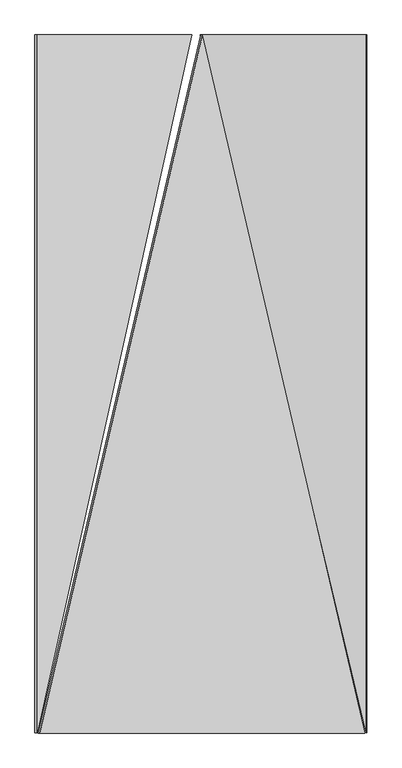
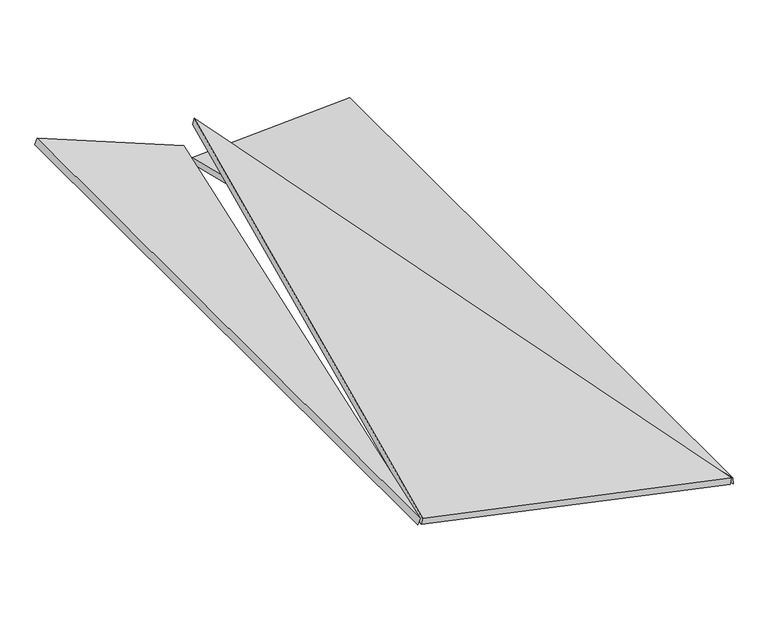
"""IFC4 building model written with IfcOpenShell, lengths in millimetres: proxy geometry, panel sufitowy 6 : panel sufitowy 6."""

from ifc_helpers import new_model, si_unit, frame, origin, place, context, project, spatial, polyline, outline, extrude, source, transform, mapped, element, save


def generic_models_03871825(model_context):
    return source(origin(), model_context, "Body", "SweptSolid", [
        extrude(outline(polyline([(-900.9098917, 0.0), (1006.1909889, 962.7191946), (1235.4098448, 0.0), (-900.9098917, 0.0)])), frame((535.3980727, 1457.4151922, 1070.4136115), z_axis=(0.20791169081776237, 0.0, 0.9781476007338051), x_axis=(-0.2265590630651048, -0.9728062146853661, 0.0481566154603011)), (0.0, 0.0, 1.0), 20.0),
        extrude(outline(polyline([(-127.5, 0.0), (-127.5, -2079.0), (-622.5, 0.0), (-127.5, 0.0)])), frame((1360.5237468, 2335.0, 928.7643904), z_axis=(-0.05233595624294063, 0.0, 0.9986295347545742), x_axis=(0.9986295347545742, 0.0, 0.05233595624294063)), (0.0, 0.0, 1.0), 20.0),
        extrude(outline(polyline([(-127.5000001, 0.0), (-622.5, 0.0), (-127.5000001, 2079.0), (-127.5000001, 0.0)])), frame((127.0534629, 2335.0, 1179.8447044), z_axis=(0.37460659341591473, 0.0, 0.9271838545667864), x_axis=(-0.9271838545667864, 0.0, 0.37460659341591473)), (0.0, 0.0, 1.0), 20.0),
    ])


if __name__ == "__main__":
    model = new_model("IFC4")
    model_context = context("Model", 3, world=origin())
    ifc_project = project(units=[si_unit("LENGTHUNIT", "METRE", prefix="MILLI")], contexts=[model_context])
    site = spatial("IfcSite", under=ifc_project)
    building = spatial("IfcBuilding", under=site)
    placement = place(None, origin())
    generic_models_shape = generic_models_03871825(model_context)
    element("IfcBuildingElementProxy", 1, Name="panel sufitowy 6 : panel sufitowy 6", ObjectType="panel sufitowy 6 : panel sufitowy 6", at=placement, inside=building, context=model_context, shape_type="MappedRepresentation", body=[
        mapped(generic_models_shape, transform((0.0, 0.0, 0.0), x_axis=(1.0, 0.0, 0.0), y_axis=(0.0, 1.0, 0.0), z_axis=(0.0, 0.0, 1.0))),
    ])
    save(model, "model.ifc")
